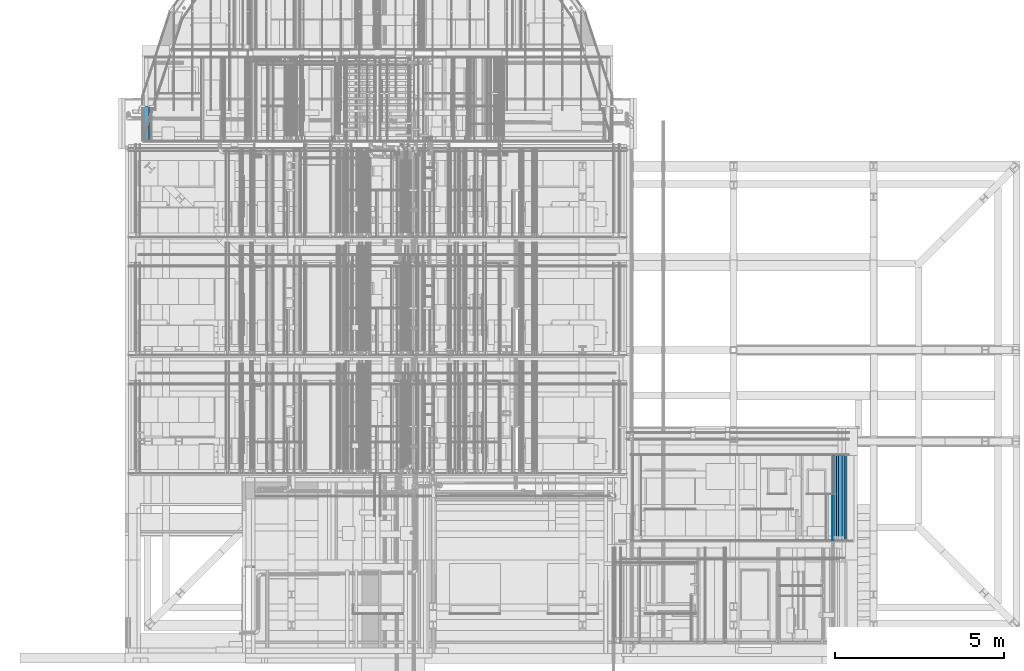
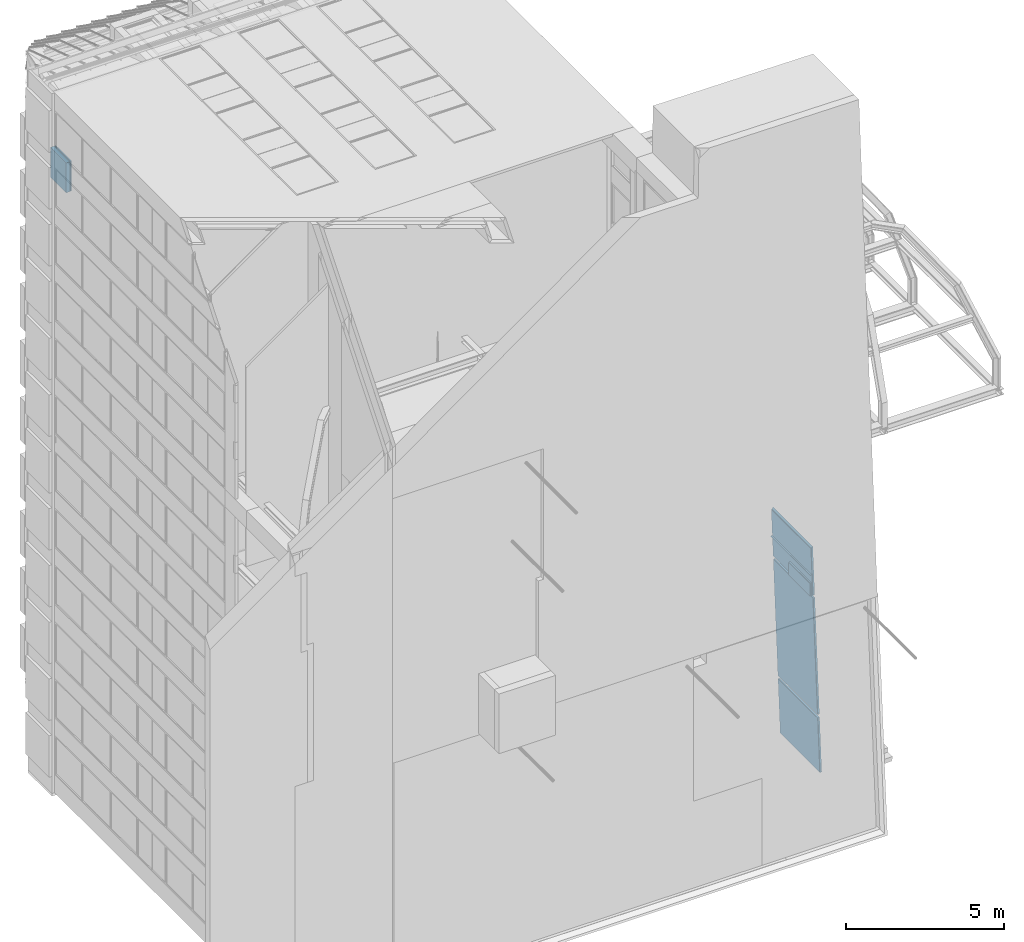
# One storey, part 130 of 583: 11 building element parts, 6 elements without a shape of their own.
"""IFC2X3 building model written with IfcOpenShell, lengths in metres."""

from ifc_helpers import new_model, entity, si_unit, converted_unit, derived_unit, money_unit, direction, frame, frame_2d, origin_with_axes, place, context, subcontext, project, spatial, polyline, rectangle, outline, extrude, material, type_object, element, aggregate, save


model = new_model("IFC2X3")

# Units and contexts
model_context = context("Model", 3, precision=1e-05, world=origin_with_axes(), true_north=direction((0.0, 1.0)))
body_context = subcontext(model_context, "Body", "Model", "MODEL_VIEW", scale=1.0)
ifc_project = project(units=[si_unit("LENGTHUNIT", "METRE"), si_unit("AREAUNIT", "SQUARE_METRE"), si_unit("VOLUMEUNIT", "CUBIC_METRE"), si_unit("ABSORBEDDOSEUNIT", "GRAY"), si_unit("AMOUNTOFSUBSTANCEUNIT", "MOLE"), si_unit("DOSEEQUIVALENTUNIT", "SIEVERT"), si_unit("ELECTRICCAPACITANCEUNIT", "FARAD"), si_unit("ELECTRICCHARGEUNIT", "COULOMB"), si_unit("ELECTRICCONDUCTANCEUNIT", "SIEMENS"), si_unit("ELECTRICCURRENTUNIT", "AMPERE"), si_unit("ELECTRICRESISTANCEUNIT", "OHM"), si_unit("ELECTRICVOLTAGEUNIT", "VOLT"), si_unit("ENERGYUNIT", "JOULE"), si_unit("FORCEUNIT", "NEWTON"), si_unit("FREQUENCYUNIT", "HERTZ"), si_unit("ILLUMINANCEUNIT", "LUX"), si_unit("INDUCTANCEUNIT", "HENRY"), si_unit("LUMINOUSFLUXUNIT", "LUMEN"), si_unit("LUMINOUSINTENSITYUNIT", "CANDELA"), si_unit("MAGNETICFLUXDENSITYUNIT", "TESLA"), si_unit("MAGNETICFLUXUNIT", "WEBER"), si_unit("MASSUNIT", "GRAM"), converted_unit("PLANEANGLEUNIT", "degree", entity("IfcReal", 0.0174532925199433), si_unit("PLANEANGLEUNIT", "RADIAN"), dimensions=[0, 0, 0, 0, 0, 0, 0]), si_unit("POWERUNIT", "WATT"), si_unit("PRESSUREUNIT", "PASCAL"), si_unit("RADIOACTIVITYUNIT", "BECQUEREL"), si_unit("SOLIDANGLEUNIT", "STERADIAN"), si_unit("THERMODYNAMICTEMPERATUREUNIT", "KELVIN"), si_unit("TIMEUNIT", "SECOND"), derived_unit("ACCELERATIONUNIT", [(si_unit("LENGTHUNIT", "METRE"), 1), (si_unit("TIMEUNIT", "SECOND"), -2)]), derived_unit("ANGULARVELOCITYUNIT", [(converted_unit("PLANEANGLEUNIT", "degree", entity("IfcReal", 0.0174532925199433), si_unit("PLANEANGLEUNIT", "RADIAN"), dimensions=[0, 0, 0, 0, 0, 0, 0]), 1), (si_unit("TIMEUNIT", "SECOND"), -1)]), derived_unit("CURVATUREUNIT", [(converted_unit("PLANEANGLEUNIT", "degree", entity("IfcReal", 0.0174532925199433), si_unit("PLANEANGLEUNIT", "RADIAN"), dimensions=[0, 0, 0, 0, 0, 0, 0]), 1), (si_unit("LENGTHUNIT", "METRE"), -1)]), derived_unit("DYNAMICVISCOSITYUNIT", [(si_unit("PRESSUREUNIT", "PASCAL"), 1), (si_unit("TIMEUNIT", "SECOND"), 1)]), derived_unit("HEATFLUXDENSITYUNIT", [(si_unit("POWERUNIT", "WATT"), 1), (si_unit("LENGTHUNIT", "METRE"), -2)]), derived_unit("HEATINGVALUEUNIT", [(si_unit("ENERGYUNIT", "JOULE"), 1), (si_unit("MASSUNIT", "GRAM"), -1)]), derived_unit("INTEGERCOUNTRATEUNIT", [(si_unit("TIMEUNIT", "SECOND"), -1)]), derived_unit("IONCONCENTRATIONUNIT", [(si_unit("MASSUNIT", "GRAM"), 1), (si_unit("VOLUMEUNIT", "CUBIC_METRE"), -1)]), derived_unit("ISOTHERMALMOISTURECAPACITYUNIT", [(si_unit("VOLUMEUNIT", "CUBIC_METRE"), 1), (si_unit("MASSUNIT", "GRAM"), -1)]), derived_unit("KINEMATICVISCOSITYUNIT", [(si_unit("AREAUNIT", "SQUARE_METRE"), 1), (si_unit("TIMEUNIT", "SECOND"), -1)]), derived_unit("LINEARFORCEUNIT", [(si_unit("FORCEUNIT", "NEWTON"), 1), (si_unit("LENGTHUNIT", "METRE"), -1)]), derived_unit("LINEARMOMENTUNIT", [(si_unit("FORCEUNIT", "NEWTON"), 1), (si_unit("LENGTHUNIT", "METRE"), -1)]), derived_unit("LINEARSTIFFNESSUNIT", [(si_unit("FORCEUNIT", "NEWTON"), 1), (si_unit("LENGTHUNIT", "METRE"), -1)]), derived_unit("LINEARVELOCITYUNIT", [(si_unit("LENGTHUNIT", "METRE"), 1), (si_unit("TIMEUNIT", "SECOND"), -1)]), derived_unit("LUMINOUSINTENSITYDISTRIBUTIONUNIT", [(si_unit("LUMINOUSINTENSITYUNIT", "CANDELA"), 1), (si_unit("LUMINOUSFLUXUNIT", "LUMEN"), -1)]), derived_unit("MASSDENSITYUNIT", [(si_unit("MASSUNIT", "GRAM"), 1), (si_unit("VOLUMEUNIT", "CUBIC_METRE"), -1)]), derived_unit("MASSFLOWRATEUNIT", [(si_unit("MASSUNIT", "GRAM"), 1), (si_unit("TIMEUNIT", "SECOND"), -1)]), derived_unit("MASSPERLENGTHUNIT", [(si_unit("MASSUNIT", "GRAM"), 1), (si_unit("LENGTHUNIT", "METRE"), -1)]), derived_unit("MODULUSOFELASTICITYUNIT", [(si_unit("FORCEUNIT", "NEWTON"), 1), (si_unit("AREAUNIT", "SQUARE_METRE"), -1)]), derived_unit("MODULUSOFLINEARSUBGRADEREACTIONUNIT", [(si_unit("FORCEUNIT", "NEWTON"), 1), (si_unit("LENGTHUNIT", "METRE"), -2)]), derived_unit("MODULUSOFROTATIONALSUBGRADEREACTIONUNIT", [(si_unit("FORCEUNIT", "NEWTON"), 1), (si_unit("LENGTHUNIT", "METRE"), 1)]), derived_unit("MODULUSOFSUBGRADEREACTIONUNIT", [(si_unit("FORCEUNIT", "NEWTON"), 1), (si_unit("VOLUMEUNIT", "CUBIC_METRE"), -1)]), derived_unit("MOISTUREDIFFUSIVITYUNIT", [(si_unit("VOLUMEUNIT", "CUBIC_METRE"), 1), (si_unit("TIMEUNIT", "SECOND"), -1)]), derived_unit("MOLECULARWEIGHTUNIT", [(si_unit("MASSUNIT", "GRAM"), 1), (si_unit("AMOUNTOFSUBSTANCEUNIT", "MOLE"), -1)]), derived_unit("PLANARFORCEUNIT", [(si_unit("FORCEUNIT", "NEWTON"), 1), (si_unit("LENGTHUNIT", "METRE"), -2)]), derived_unit("ROTATIONALFREQUENCYUNIT", [(si_unit("TIMEUNIT", "SECOND"), -1)]), derived_unit("ROTATIONALMASSUNIT", [(si_unit("MASSUNIT", "GRAM"), 1), (si_unit("LENGTHUNIT", "METRE"), 2)]), derived_unit("ROTATIONALSTIFFNESSUNIT", [(si_unit("FORCEUNIT", "NEWTON"), 1), (si_unit("LENGTHUNIT", "METRE"), 1), (converted_unit("PLANEANGLEUNIT", "degree", entity("IfcReal", 0.0174532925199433), si_unit("PLANEANGLEUNIT", "RADIAN"), dimensions=[0, 0, 0, 0, 0, 0, 0]), -1)]), derived_unit("SECTIONAREAINTEGRALUNIT", [(si_unit("LENGTHUNIT", "METRE"), 5)]), derived_unit("SECTIONMODULUSUNIT", [(si_unit("LENGTHUNIT", "METRE"), 3)]), derived_unit("SHEARMODULUSUNIT", [(si_unit("FORCEUNIT", "NEWTON"), 1), (si_unit("AREAUNIT", "SQUARE_METRE"), -1)]), derived_unit("SOUNDPOWERUNIT", [(si_unit("ENERGYUNIT", "JOULE"), 1), (si_unit("TIMEUNIT", "SECOND"), -1)]), derived_unit("SPECIFICHEATCAPACITYUNIT", [(si_unit("FORCEUNIT", "NEWTON"), 1), (si_unit("MASSUNIT", "GRAM"), -1), (si_unit("THERMODYNAMICTEMPERATUREUNIT", "KELVIN"), -1)]), derived_unit("TEMPERATUREGRADIENTUNIT", [(si_unit("THERMODYNAMICTEMPERATUREUNIT", "KELVIN"), 1), (si_unit("LENGTHUNIT", "METRE"), -1)]), derived_unit("THERMALADMITTANCEUNIT", [(si_unit("POWERUNIT", "WATT"), 1), (si_unit("AREAUNIT", "SQUARE_METRE"), -1), (si_unit("THERMODYNAMICTEMPERATUREUNIT", "KELVIN"), -1)]), derived_unit("THERMALCONDUCTANCEUNIT", [(si_unit("POWERUNIT", "WATT"), 1), (si_unit("LENGTHUNIT", "METRE"), -1), (si_unit("THERMODYNAMICTEMPERATUREUNIT", "KELVIN"), -1)]), derived_unit("THERMALEXPANSIONCOEFFICIENTUNIT", [(si_unit("THERMODYNAMICTEMPERATUREUNIT", "KELVIN"), -1)]), derived_unit("THERMALRESISTANCEUNIT", [(si_unit("AREAUNIT", "SQUARE_METRE"), 1), (si_unit("POWERUNIT", "WATT"), -1)]), derived_unit("THERMALTRANSMITTANCEUNIT", [(si_unit("POWERUNIT", "WATT"), 1), (si_unit("AREAUNIT", "SQUARE_METRE"), -1), (si_unit("THERMODYNAMICTEMPERATUREUNIT", "KELVIN"), -1)]), derived_unit("TORQUEUNIT", [(si_unit("FORCEUNIT", "NEWTON"), 1), (si_unit("LENGTHUNIT", "METRE"), 1)]), derived_unit("VAPORPERMEABILITYUNIT", [(si_unit("MASSUNIT", "GRAM"), 1), (si_unit("TIMEUNIT", "SECOND"), -1)]), derived_unit("VOLUMETRICFLOWRATEUNIT", [(si_unit("VOLUMEUNIT", "CUBIC_METRE"), 1), (si_unit("TIMEUNIT", "SECOND"), -1)]), derived_unit("WARPINGCONSTANTUNIT", [(si_unit("LENGTHUNIT", "METRE"), 6)]), derived_unit("WARPINGMOMENTUNIT", [(si_unit("FORCEUNIT", "NEWTON"), 1), (si_unit("LENGTHUNIT", "METRE"), 2)]), money_unit("GBP")], contexts=[model_context])

# Site, building, storey
site_placement = place(None, origin_with_axes())
site = spatial("IfcSite", under=ifc_project, at=site_placement, Name="Site", CompositionType="ELEMENT")
building_placement = place(site_placement, origin_with_axes())
building = spatial("IfcBuilding", under=site, at=building_placement, Name="Building01", CompositionType="ELEMENT")
storey_placement = place(building_placement, frame((0.0, 0.0, 20.78), z_axis=(0.0, 0.0, 1.0), x_axis=(1.0, 0.0, 0.0)))
storey = spatial("IfcBuildingStorey", under=building, at=storey_placement, Name="RL", CompositionType="ELEMENT", Elevation=20.78)

# Wall, building element part
wall_type_1 = type_object("IfcWallType", Name="SHE_A-Walls_Type05c_PreWallShell_65mm", PredefinedType="NOTDEFINED")
wall_1_placement = place(storey_placement, frame((20.948792, 3.185, -12.770583), z_axis=(0.0, 1.0, 0.0), x_axis=(-1.0, 0.0, 0.0)))
wall_1 = element("IfcWall", 1, at=wall_1_placement, inside=storey, type_object=wall_type_1, Name="5C", ObjectType="SHE_A-Walls_Type05c_PreWallShell_65mm")
ifc_material_1 = material(Name="A_BSUK_Walls_Timber")
building_element_part_1_placement = place(wall_1_placement, origin_with_axes())
building_element_part_1 = element("IfcBuildingElementPart", 2, at=building_element_part_1_placement, material=ifc_material_1, Name="2", context=body_context, shape_type="SweptSolid", body=[
    extrude(outline(polyline([(0.054682, 0.065), (0.002411, 0.065), (0.001855, 0.05), (0.054682, 0.05), (0.054682, 0.065)])), origin_with_axes(), (0.0, 0.0, 1.0), 2.5),
])
aggregate(wall_1, [building_element_part_1])

# Wall, building element parts
wall_2_placement = place(storey_placement, frame((20.94411, 3.185, -13.016201), z_axis=(0.0, 1.0, 0.0), x_axis=(0.0, 0.0, -1.0)))
wall_2 = element("IfcWall", 3, at=wall_2_placement, inside=storey, type_object=wall_type_1, Name="5C", ObjectType="SHE_A-Walls_Type05c_PreWallShell_65mm")
ifc_material_2 = material(Name="A_BSUK_OpeningsClearance")
placement_1 = place(wall_2_placement, origin_with_axes())
building_element_part_2 = element("IfcBuildingElementPart", 4, at=placement_1, material=ifc_material_2, Name="1", context=body_context, shape_type="SweptSolid", body=[
    extrude(outline(polyline([(0.496701, 0.05), (0.0, 0.05), (0.0, 0.0), (0.497251, 0.0), (0.496701, 0.05)])), origin_with_axes(), (0.0, 0.0, 1.0), 1.35),
])
building_element_part_3 = element("IfcBuildingElementPart", 5, at=placement_1, material=ifc_material_1, Name="2", context=body_context, shape_type="SweptSolid", body=[
    extrude(outline(polyline([(0.496537, 0.065), (0.015, 0.065), (0.015, 0.05), (0.496701, 0.05), (0.496537, 0.065)])), origin_with_axes(), (0.0, 0.0, 1.0), 1.35),
])
aggregate(wall_2, [building_element_part_2, building_element_part_3])

wall_type_2 = type_object("IfcWallType", Name="SHE_A-Walls_Type06c_ExternalWallInsulation_60mm", PredefinedType="NOTDEFINED")
wall_3_placement = place(storey_placement, frame((21.233862, 3.185, -18.30863), z_axis=(0.0, 1.0, 0.0), x_axis=(0.03707243, 0.0, -0.99931258)))
wall_3 = element("IfcWall", 6, at=wall_3_placement, inside=storey, type_object=wall_type_2, Name="6C", ObjectType="SHE_A-Walls_Type06c_ExternalWallInsulation_60mm")
ifc_material_3 = material(Name="A_BSUK_Insulation")
placement_2 = place(wall_3_placement, origin_with_axes())
building_element_part_4 = element("IfcBuildingElementPart", 7, at=placement_2, material=ifc_material_3, Name="1", context=body_context, shape_type="SweptSolid", body=[
    extrude(outline(polyline([(2.129712, 0.06), (0.0, 0.06), (0.0, 0.0), (2.131938, 0.0), (2.129712, 0.06)])), origin_with_axes(), (0.0, 0.0, 1.0), 2.5),
])
ifc_material_4 = material(Name="A_BSUK_WallInternal_Finishes_Plasterboard")
building_element_part_5 = element("IfcBuildingElementPart", 8, at=placement_2, material=ifc_material_4, Name="3", context=body_context, shape_type="SweptSolid", body=[
    extrude(outline(polyline([(2.117259, 0.072), (0.0, 0.072), (0.0, 0.059), (2.117741, 0.059), (2.117259, 0.072)])), origin_with_axes(), (0.0, 0.0, 1.0), 2.5),
])
aggregate(wall_3, [building_element_part_4, building_element_part_5])

wall_4_placement = place(storey_placement, frame((21.06028, 3.185, -13.629602), z_axis=(0.0, 1.0, 0.0), x_axis=(0.03707243, 0.0, -0.99931258)))
wall_4 = element("IfcWall", 9, at=wall_4_placement, inside=storey, type_object=wall_type_2, Name="6C", ObjectType="SHE_A-Walls_Type06c_ExternalWallInsulation_60mm")
placement_3 = place(wall_4_placement, origin_with_axes())
building_element_part_6 = element("IfcBuildingElementPart", 10, at=placement_3, material=ifc_material_3, Name="1", context=body_context, shape_type="SweptSolid", body=[
    extrude(rectangle(XDim=4.552211, YDim=0.06, at=frame_2d((2.276105, 0.03), x_axis=(1.0, 0.0))), origin_with_axes(), (0.0, 0.0, 1.0), 2.5),
])
building_element_part_7 = element("IfcBuildingElementPart", 11, at=placement_3, material=ifc_material_4, Name="3", context=body_context, shape_type="SweptSolid", body=[
    extrude(rectangle(XDim=4.552211, YDim=0.013, at=frame_2d((2.276105, 0.0655), x_axis=(1.0, 0.0))), origin_with_axes(), (0.0, 0.0, 1.0), 2.5),
])
aggregate(wall_4, [building_element_part_6, building_element_part_7])

wall_5_placement = place(storey_placement, frame((20.985941, 3.185, -11.625735), z_axis=(0.0, 1.0, 0.0), x_axis=(0.03707243, 0.0, -0.99931258)))
wall_5 = element("IfcWall", 12, at=wall_5_placement, inside=storey, type_object=wall_type_2, Name="6C", ObjectType="SHE_A-Walls_Type06c_ExternalWallInsulation_60mm")
placement_4 = place(wall_5_placement, origin_with_axes())
building_element_part_8 = element("IfcBuildingElementPart", 13, at=placement_4, material=ifc_material_3, Name="1", context=body_context, shape_type="SweptSolid", body=[
    extrude(outline(polyline([(0.057815, 0.06), (0.0, 0.0), (1.892968, 0.0), (1.892968, 0.06), (0.057815, 0.06)])), origin_with_axes(), (0.0, 0.0, 1.0), 2.5),
])
building_element_part_9 = element("IfcBuildingElementPart", 14, at=placement_4, material=ifc_material_4, Name="3", context=body_context, shape_type="SweptSolid", body=[
    extrude(outline(polyline([(0.069378, 0.072), (0.056852, 0.059), (1.892968, 0.059), (1.892968, 0.072), (0.069378, 0.072)])), origin_with_axes(), (0.0, 0.0, 1.0), 2.5),
])
aggregate(wall_5, [building_element_part_8, building_element_part_9])

wall_type_3 = type_object("IfcWallType", Name="SHE_A-Walls_Type06e_ExternalWallPenthouse_280mm", PredefinedType="NOTDEFINED")
wall_6_placement = place(storey_placement, frame((0.565, 14.98, 3.149976), z_axis=(0.0, 1.0, 0.0), x_axis=(0.0, 0.0, -1.0)))
wall_6 = element("IfcWall", 15, at=wall_6_placement, inside=storey, type_object=wall_type_3, Name="6E", ObjectType="SHE_A-Walls_Type06e_ExternalWallPenthouse_280mm")
placement_5 = place(wall_6_placement, origin_with_axes())
building_element_part_10 = element("IfcBuildingElementPart", 16, at=placement_5, material=ifc_material_3, Name="1", context=body_context, shape_type="SweptSolid", body=[
    extrude(rectangle(XDim=1.149951, YDim=0.14, at=frame_2d((0.574976, -0.07), x_axis=(-1.0, 0.0))), origin_with_axes(), (0.0, 0.0, 1.0), 1.0),
])
building_element_part_11 = element("IfcBuildingElementPart", 17, at=placement_5, material=ifc_material_3, Name="2", context=body_context, shape_type="SweptSolid", body=[
    extrude(rectangle(XDim=1.149951, YDim=0.04, at=frame_2d((0.574976, -0.185), x_axis=(-1.0, 0.0))), origin_with_axes(), (0.0, 0.0, 1.0), 1.0),
])
aggregate(wall_6, [building_element_part_10, building_element_part_11])

save(model, "model.ifc")
